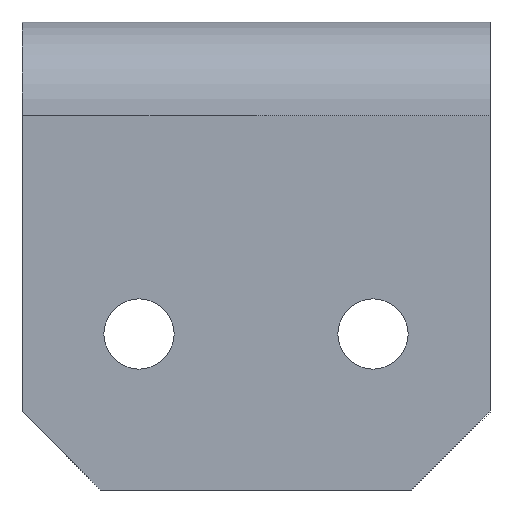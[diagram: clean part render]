
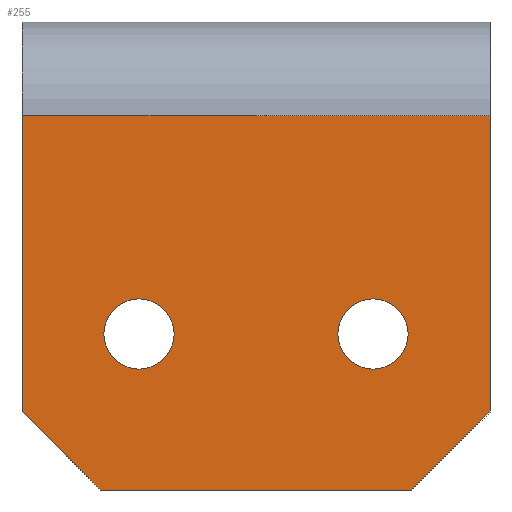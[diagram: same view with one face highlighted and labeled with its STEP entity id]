
A CAD part, front view. The second image highlights one B-rep face of the part: STEP entity #255.
In plain terms, the highlighted planar face has unit normal (0, -1, 0).
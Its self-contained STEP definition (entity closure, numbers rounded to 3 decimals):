
#21 = PLANE ( 'NONE',  #279 ) ;
#33 = CARTESIAN_POINT ( 'NONE',  ( 0., 0., -6. ) ) ;
#52 = VERTEX_POINT ( 'NONE', #460 ) ;
#63 = LINE ( 'NONE', #33, #226 ) ;
#64 = CARTESIAN_POINT ( 'NONE',  ( -30., 0., -6. ) ) ;
#82 = DIRECTION ( 'NONE',  ( 0., -1., 0. ) ) ;
#85 = DIRECTION ( 'NONE',  ( 0., 0., -1. ) ) ;
#90 = ORIENTED_EDGE ( 'NONE', *, *, #283, .F. ) ;
#95 = LINE ( 'NONE', #642, #602 ) ;
#96 = VERTEX_POINT ( 'NONE', #585 ) ;
#111 = CARTESIAN_POINT ( 'NONE',  ( -30., 0., -6. ) ) ;
#116 = DIRECTION ( 'NONE',  ( 1., 0., 0. ) ) ;
#122 = CARTESIAN_POINT ( 'NONE',  ( -5.5, 0., -30.5 ) ) ;
#131 = DIRECTION ( 'NONE',  ( 1., 0., 0. ) ) ;
#135 = CARTESIAN_POINT ( 'NONE',  ( -7.5, 0., -20. ) ) ;
#139 = EDGE_CURVE ( 'NONE', #564, #416, #287, .T. ) ;
#153 = CIRCLE ( 'NONE', #544, 2.25 ) ;
#159 = DIRECTION ( 'NONE',  ( 0., -1., 0. ) ) ;
#162 = DIRECTION ( 'NONE',  ( 0., 0., -1. ) ) ;
#166 = DIRECTION ( 'NONE',  ( 0., 0., -1. ) ) ;
#176 = CIRCLE ( 'NONE', #629, 2.25 ) ;
#180 = CARTESIAN_POINT ( 'NONE',  ( -30., 0., -30. ) ) ;
#183 = ORIENTED_EDGE ( 'NONE', *, *, #637, .T. ) ;
#202 = ORIENTED_EDGE ( 'NONE', *, *, #696, .T. ) ;
#210 = EDGE_CURVE ( 'NONE', #332, #528, #257, .T. ) ;
#218 = EDGE_CURVE ( 'NONE', #550, #96, #63, .T. ) ;
#226 = VECTOR ( 'NONE', #166, 1000. ) ;
#245 = CARTESIAN_POINT ( 'NONE',  ( 0., 0., -6. ) ) ;
#255 = ADVANCED_FACE ( 'NONE', ( #305, #322, #548 ), #21, .T. ) ;
#256 = EDGE_CURVE ( 'NONE', #598, #550, #589, .T. ) ;
#257 = LINE ( 'NONE', #180, #673 ) ;
#261 = ORIENTED_EDGE ( 'NONE', *, *, #210, .T. ) ;
#271 = ORIENTED_EDGE ( 'NONE', *, *, #406, .F. ) ;
#279 = AXIS2_PLACEMENT_3D ( 'NONE', #64, #82, #85 ) ;
#283 = EDGE_CURVE ( 'NONE', #362, #409, #471, .T. ) ;
#287 = CIRCLE ( 'NONE', #706, 2.25 ) ;
#288 = CARTESIAN_POINT ( 'NONE',  ( -22.5, 0., -17.75 ) ) ;
#305 = FACE_BOUND ( 'NONE', #716, .T. ) ;
#315 = ORIENTED_EDGE ( 'NONE', *, *, #256, .F. ) ;
#322 = FACE_BOUND ( 'NONE', #563, .T. ) ;
#323 = AXIS2_PLACEMENT_3D ( 'NONE', #135, #159, #162 ) ;
#330 = ORIENTED_EDGE ( 'NONE', *, *, #139, .F. ) ;
#331 = VECTOR ( 'NONE', #551, 1000. ) ;
#332 = VERTEX_POINT ( 'NONE', #354 ) ;
#335 = EDGE_CURVE ( 'NONE', #52, #332, #608, .T. ) ;
#340 = CARTESIAN_POINT ( 'NONE',  ( -30., 0., -6. ) ) ;
#342 = CARTESIAN_POINT ( 'NONE',  ( -39.5, 0., -15.5 ) ) ;
#354 = CARTESIAN_POINT ( 'NONE',  ( -25., 0., -30. ) ) ;
#362 = VERTEX_POINT ( 'NONE', #399 ) ;
#368 = DIRECTION ( 'NONE',  ( 0.707, 0., -0.707 ) ) ;
#381 = ORIENTED_EDGE ( 'NONE', *, *, #441, .F. ) ;
#399 = CARTESIAN_POINT ( 'NONE',  ( -7.5, 0., -22.25 ) ) ;
#406 = EDGE_CURVE ( 'NONE', #409, #362, #153, .T. ) ;
#409 = VERTEX_POINT ( 'NONE', #568 ) ;
#416 = VERTEX_POINT ( 'NONE', #630 ) ;
#435 = ORIENTED_EDGE ( 'NONE', *, *, #335, .T. ) ;
#441 = EDGE_CURVE ( 'NONE', #416, #564, #176, .T. ) ;
#460 = CARTESIAN_POINT ( 'NONE',  ( -30., 0., -25. ) ) ;
#463 = CARTESIAN_POINT ( 'NONE',  ( -5., 0., -30. ) ) ;
#471 = CIRCLE ( 'NONE', #323, 2.25 ) ;
#482 = LINE ( 'NONE', #122, #331 ) ;
#518 = DIRECTION ( 'NONE',  ( 0., 0., -1. ) ) ;
#526 = DIRECTION ( 'NONE',  ( 0., -1., 0. ) ) ;
#528 = VERTEX_POINT ( 'NONE', #463 ) ;
#533 = CARTESIAN_POINT ( 'NONE',  ( -22.5, 0., -20. ) ) ;
#544 = AXIS2_PLACEMENT_3D ( 'NONE', #579, #628, #620 ) ;
#548 = FACE_OUTER_BOUND ( 'NONE', #625, .T. ) ;
#550 = VERTEX_POINT ( 'NONE', #245 ) ;
#551 = DIRECTION ( 'NONE',  ( 0.707, 0., 0.707 ) ) ;
#563 = EDGE_LOOP ( 'NONE', ( #271, #90 ) ) ;
#564 = VERTEX_POINT ( 'NONE', #288 ) ;
#568 = CARTESIAN_POINT ( 'NONE',  ( -7.5, 0., -17.75 ) ) ;
#579 = CARTESIAN_POINT ( 'NONE',  ( -7.5, 0., -20. ) ) ;
#585 = CARTESIAN_POINT ( 'NONE',  ( 0., 0., -25. ) ) ;
#589 = LINE ( 'NONE', #111, #704 ) ;
#598 = VERTEX_POINT ( 'NONE', #340 ) ;
#602 = VECTOR ( 'NONE', #705, 1000. ) ;
#608 = LINE ( 'NONE', #342, #725 ) ;
#620 = DIRECTION ( 'NONE',  ( 0., 0., -1. ) ) ;
#625 = EDGE_LOOP ( 'NONE', ( #202, #435, #261, #183, #640, #315 ) ) ;
#628 = DIRECTION ( 'NONE',  ( 0., -1., 0. ) ) ;
#629 = AXIS2_PLACEMENT_3D ( 'NONE', #676, #678, #682 ) ;
#630 = CARTESIAN_POINT ( 'NONE',  ( -22.5, 0., -22.25 ) ) ;
#637 = EDGE_CURVE ( 'NONE', #528, #96, #482, .T. ) ;
#640 = ORIENTED_EDGE ( 'NONE', *, *, #218, .F. ) ;
#642 = CARTESIAN_POINT ( 'NONE',  ( -30., 0., -6. ) ) ;
#673 = VECTOR ( 'NONE', #131, 1000. ) ;
#676 = CARTESIAN_POINT ( 'NONE',  ( -22.5, 0., -20. ) ) ;
#678 = DIRECTION ( 'NONE',  ( 0., -1., 0. ) ) ;
#682 = DIRECTION ( 'NONE',  ( 0., 0., -1. ) ) ;
#696 = EDGE_CURVE ( 'NONE', #598, #52, #95, .T. ) ;
#704 = VECTOR ( 'NONE', #116, 1000. ) ;
#705 = DIRECTION ( 'NONE',  ( 0., 0., -1. ) ) ;
#706 = AXIS2_PLACEMENT_3D ( 'NONE', #533, #526, #518 ) ;
#716 = EDGE_LOOP ( 'NONE', ( #330, #381 ) ) ;
#725 = VECTOR ( 'NONE', #368, 1000. ) ;
